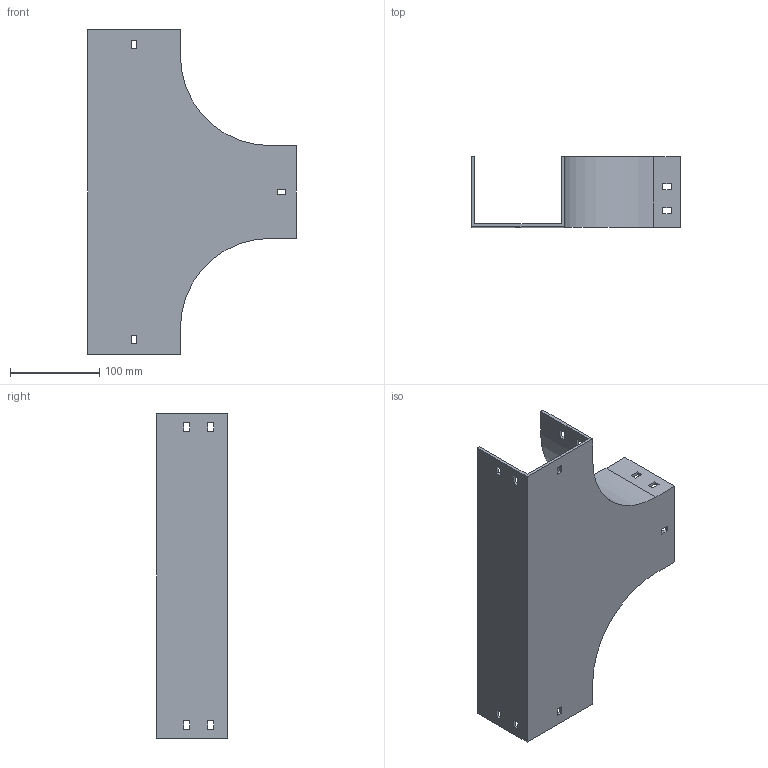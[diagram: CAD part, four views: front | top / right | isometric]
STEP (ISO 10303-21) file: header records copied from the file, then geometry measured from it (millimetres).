
FILE_DESCRIPTION (( 'STEP AP214' ), '1' );
FILE_NAME ('15F1C100.step', '2025-02-21T13:04:37', ( '' ), ( '' ), 'SwSTEP 2.0', 'SolidWorks 2023', '' );
FILE_SCHEMA (( 'AUTOMOTIVE_DESIGN' ));
Length unit declared in the file: millimetre
Products named in the file (1): 15F1C100
Bounding box: 234 x 79 x 364 mm (x, y, z)
Volume: 403650.3 mm3; surface area: 237881.8 mm2
Topology: 1 solids, 1 shells, 82 faces, 240 edges, 160 vertices
Faces by surface type: plane 78, cylinder 4
Entity records: 2755 total; most frequent: CARTESIAN_POINT 483, ORIENTED_EDGE 480, DIRECTION 414, EDGE_CURVE 240, VECTOR 232, LINE 232, VERTEX_POINT 160, EDGE_LOOP 112
